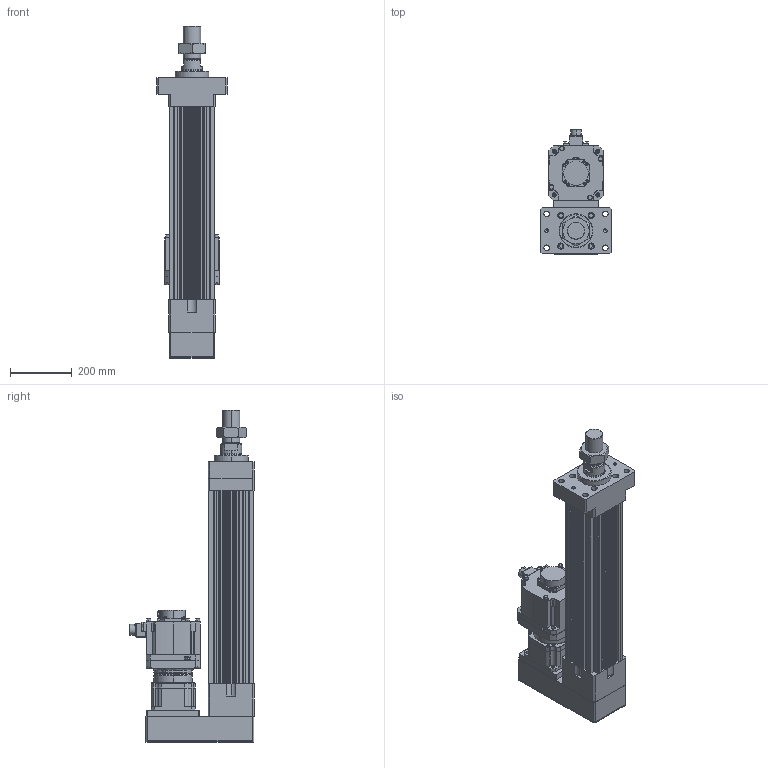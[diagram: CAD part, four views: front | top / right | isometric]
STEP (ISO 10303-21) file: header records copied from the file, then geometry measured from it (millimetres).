
FILE_DESCRIPTION (( 'STEP AP203' ), '1' );
FILE_NAME ('HES150NS(HS)-P350-W035G00-M-FMA.STEP', '2023-01-31T10:19:45', ( 'tms' ), ( '' ), 'SwSTEP 2.0', 'SolidWorks 2013', '' );
FILE_SCHEMA (( 'CONFIG_CONTROL_DESIGN' ));
Length unit declared in the file: millimetre
Products named in the file (9): P0403500801; HES150-P350-G142-FMA; M56X2.0P; AB1421; P1301500001; AB142-003[HG-SR352]; HES150 ROD M ST350; HG-SR352; HES150NS(HS)-P350-W035G00-M-FMA
Assembly tree (8 placements, depth 3):
  HES150NS(HS)-P350-W035G00-M-FMA
    HES150-P350-G142-FMA
    HES150 ROD M ST350
    M56X2.0P
    AB142-003[HG-SR352]
      AB1421
      P1301500001
      P0403500801
    HG-SR352
Bounding box: 230 x 403.85 x 1076 mm (x, y, z)
Volume: 19045943.3 mm3; surface area: 1834067.9 mm2
Topology: 4 solids, 18 shells, 1426 faces, 3722 edges, 2416 vertices
Faces by surface type: cylinder 669, plane 531, cone 144, bspline 76, torus 6
Entity records: 52806 total; most frequent: CARTESIAN_POINT 16363, DIRECTION 7620, ORIENTED_EDGE 7346, EDGE_CURVE 3695, AXIS2_PLACEMENT_3D 2898, VERTEX_POINT 2416, VECTOR 1824, LINE 1824
